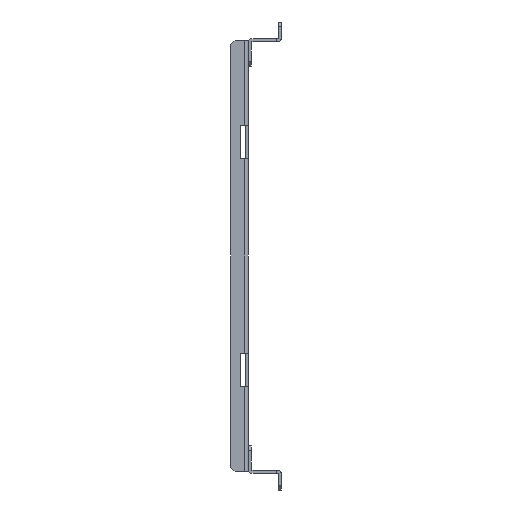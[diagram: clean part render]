
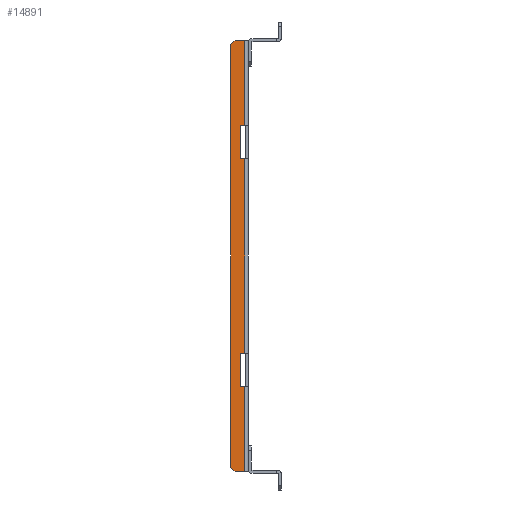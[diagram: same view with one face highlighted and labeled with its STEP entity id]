
A CAD part, left-side view. The second image highlights one B-rep face of the part: STEP entity #14891.
In plain terms, the highlighted planar face has unit normal (-1, 0, 0).
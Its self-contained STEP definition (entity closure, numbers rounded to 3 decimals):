
#10676=CARTESIAN_POINT(' ',(-224.5,3.5,64.));
#10677=VERTEX_POINT(' ',#10676);
#10691=CARTESIAN_POINT(' ',(-224.5,0.6,64.));
#10696=DIRECTION(' ',(0.,1.,0.));
#10701=VECTOR(' ',#10696,1.);
#10706=LINE('',#10691,#10701);
#10711=CARTESIAN_POINT(' ',(-224.5,0.6,64.));
#10712=VERTEX_POINT(' ',#10711);
#10716=EDGE_CURVE(' ',#10712,#10677,#10706,.T.);
#10951=CARTESIAN_POINT(' ',(-224.5,0.6,86.));
#10952=VERTEX_POINT(' ',#10951);
#10966=CARTESIAN_POINT(' ',(-224.5,3.5,86.));
#10971=DIRECTION(' ',(0.,-1.,0.));
#10976=VECTOR(' ',#10971,1.);
#10981=LINE('',#10966,#10976);
#10986=CARTESIAN_POINT(' ',(-224.5,3.5,86.));
#10987=VERTEX_POINT(' ',#10986);
#10991=EDGE_CURVE(' ',#10987,#10952,#10981,.T.);
#12131=CARTESIAN_POINT(' ',(-224.5,3.5,-86.));
#12132=VERTEX_POINT(' ',#12131);
#12146=CARTESIAN_POINT(' ',(-224.5,0.6,-86.));
#12151=DIRECTION(' ',(0.,1.,0.));
#12156=VECTOR(' ',#12151,1.);
#12161=LINE('',#12146,#12156);
#12166=CARTESIAN_POINT(' ',(-224.5,0.6,-86.));
#12167=VERTEX_POINT(' ',#12166);
#12171=EDGE_CURVE(' ',#12167,#12132,#12161,.T.);
#12406=CARTESIAN_POINT(' ',(-224.5,0.6,-64.));
#12407=VERTEX_POINT(' ',#12406);
#12421=CARTESIAN_POINT(' ',(-224.5,3.5,-64.));
#12426=DIRECTION(' ',(0.,-1.,0.));
#12431=VECTOR(' ',#12426,1.);
#12436=LINE('',#12421,#12431);
#12441=CARTESIAN_POINT(' ',(-224.5,3.5,-64.));
#12442=VERTEX_POINT(' ',#12441);
#12446=EDGE_CURVE(' ',#12442,#12407,#12436,.T.);
#12576=CARTESIAN_POINT(' ',(-224.5,0.6,64.));
#12581=DIRECTION(' ',(0.,0.,-1.));
#12586=VECTOR(' ',#12581,1.);
#12591=LINE('',#12576,#12586);
#12596=EDGE_CURVE(' ',#10712,#12407,#12591,.T.);
#12696=CARTESIAN_POINT(' ',(-224.5,0.6,142.));
#12697=VERTEX_POINT(' ',#12696);
#12711=CARTESIAN_POINT(' ',(-224.5,0.6,142.));
#12716=DIRECTION(' ',(0.,0.,-1.));
#12721=VECTOR(' ',#12716,1.);
#12726=LINE('',#12711,#12721);
#12731=EDGE_CURVE(' ',#12697,#10952,#12726,.T.);
#12786=CARTESIAN_POINT(' ',(-224.5,0.6,-86.));
#12791=DIRECTION(' ',(0.,0.,-1.));
#12796=VECTOR(' ',#12791,1.);
#12801=LINE('',#12786,#12796);
#12806=CARTESIAN_POINT(' ',(-224.5,0.6,-142.));
#12807=VERTEX_POINT(' ',#12806);
#12811=EDGE_CURVE(' ',#12167,#12807,#12801,.T.);
#14561=CARTESIAN_POINT(' ',(-224.5,3.5,64.));
#14566=DIRECTION(' ',(0.,0.,1.));
#14571=VECTOR(' ',#14566,1.);
#14576=LINE('',#14561,#14571);
#14581=EDGE_CURVE(' ',#10677,#10987,#14576,.T.);
#14616=DIRECTION(' ',(-1.,-0.,0.));
#14621=CARTESIAN_POINT(' ',(-224.5,0.6,142.));
#14626=DIRECTION(' ',(0.,1.,0.));
#14631=AXIS2_PLACEMENT_3D(' ',#14621,#14616,#14626);
#14636=PLANE('NONE',#14631);
#14641=ORIENTED_EDGE(' ',*,*,#10716,.T.);
#14646=ORIENTED_EDGE(' ',*,*,#14581,.T.);
#14651=ORIENTED_EDGE(' ',*,*,#10991,.T.);
#14656=ORIENTED_EDGE(' ',*,*,#12731,.F.);
#14661=CARTESIAN_POINT(' ',(-224.5,7.,142.));
#14666=DIRECTION(' ',(0.,-1.,0.));
#14671=VECTOR(' ',#14666,1.);
#14676=LINE('',#14661,#14671);
#14681=CARTESIAN_POINT(' ',(-224.5,7.,142.));
#14682=VERTEX_POINT(' ',#14681);
#14686=EDGE_CURVE(' ',#14682,#12697,#14676,.T.);
#14691=ORIENTED_EDGE(' ',*,*,#14686,.F.);
#14696=CARTESIAN_POINT(' ',(-224.5,7.,142.));
#14701=DIRECTION(' ',(0.,0.707,-0.707));
#14706=VECTOR(' ',#14701,1.);
#14711=LINE('',#14696,#14706);
#14716=CARTESIAN_POINT(' ',(-224.5,10.,139.));
#14717=VERTEX_POINT(' ',#14716);
#14721=EDGE_CURVE(' ',#14682,#14717,#14711,.T.);
#14726=ORIENTED_EDGE(' ',*,*,#14721,.T.);
#14731=CARTESIAN_POINT(' ',(-224.5,10.,139.));
#14736=DIRECTION(' ',(0.,0.,-1.));
#14741=VECTOR(' ',#14736,1.);
#14746=LINE('',#14731,#14741);
#14751=CARTESIAN_POINT(' ',(-224.5,10.,-139.));
#14752=VERTEX_POINT(' ',#14751);
#14756=EDGE_CURVE(' ',#14717,#14752,#14746,.T.);
#14761=ORIENTED_EDGE(' ',*,*,#14756,.T.);
#14766=CARTESIAN_POINT(' ',(-224.5,10.,-139.));
#14771=DIRECTION(' ',(0.,-0.707,-0.707));
#14776=VECTOR(' ',#14771,1.);
#14781=LINE('',#14766,#14776);
#14786=CARTESIAN_POINT(' ',(-224.5,7.,-142.));
#14787=VERTEX_POINT(' ',#14786);
#14791=EDGE_CURVE(' ',#14752,#14787,#14781,.T.);
#14796=ORIENTED_EDGE(' ',*,*,#14791,.T.);
#14801=CARTESIAN_POINT(' ',(-224.5,7.,-142.));
#14806=DIRECTION(' ',(0.,-1.,0.));
#14811=VECTOR(' ',#14806,1.);
#14816=LINE('',#14801,#14811);
#14821=EDGE_CURVE(' ',#14787,#12807,#14816,.T.);
#14826=ORIENTED_EDGE(' ',*,*,#14821,.T.);
#14831=ORIENTED_EDGE(' ',*,*,#12811,.F.);
#14836=ORIENTED_EDGE(' ',*,*,#12171,.T.);
#14841=CARTESIAN_POINT(' ',(-224.5,3.5,-86.));
#14846=DIRECTION(' ',(0.,0.,1.));
#14851=VECTOR(' ',#14846,1.);
#14856=LINE('',#14841,#14851);
#14861=EDGE_CURVE(' ',#12132,#12442,#14856,.T.);
#14866=ORIENTED_EDGE(' ',*,*,#14861,.T.);
#14871=ORIENTED_EDGE(' ',*,*,#12446,.T.);
#14876=ORIENTED_EDGE(' ',*,*,#12596,.F.);
#14881=EDGE_LOOP(' ',(#14641,#14646,#14651,#14656,#14691,#14726,#14761,#14796,#14826,#14831,#14836,#14866,#14871,#14876));
#14886=FACE_OUTER_BOUND(' ',#14881,.T.);
#14891=ADVANCED_FACE('NONE',(#14886),#14636,.T.);
